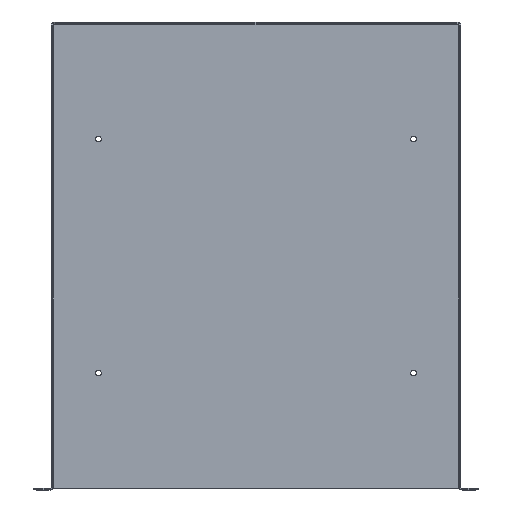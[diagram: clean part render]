
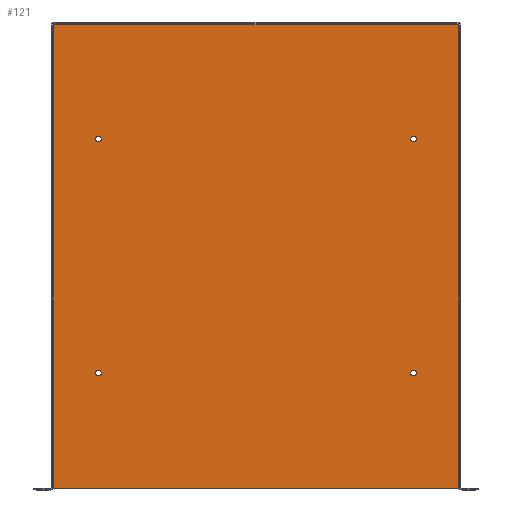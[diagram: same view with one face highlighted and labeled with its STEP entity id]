
A CAD part, top view. The second image highlights one B-rep face of the part: STEP entity #121.
In plain terms, the highlighted planar face has unit normal (0, 0, 1).
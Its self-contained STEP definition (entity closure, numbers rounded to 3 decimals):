
#121 = ADVANCED_FACE( '', ( #297, #298, #299, #300, #301 ), #302, .T. );
#297 = FACE_BOUND( '', #590, .T. );
#298 = FACE_BOUND( '', #591, .T. );
#299 = FACE_BOUND( '', #592, .T. );
#300 = FACE_BOUND( '', #593, .T. );
#301 = FACE_OUTER_BOUND( '', #594, .T. );
#302 = PLANE( '', #595 );
#590 = EDGE_LOOP( '', ( #1262 ) );
#591 = EDGE_LOOP( '', ( #1263 ) );
#592 = EDGE_LOOP( '', ( #1264 ) );
#593 = EDGE_LOOP( '', ( #1265 ) );
#594 = EDGE_LOOP( '', ( #1266, #1267, #1268, #1269 ) );
#595 = AXIS2_PLACEMENT_3D( '', #1270, #1271, #1272 );
#1262 = ORIENTED_EDGE( '', *, *, #1536, .F. );
#1263 = ORIENTED_EDGE( '', *, *, #1534, .F. );
#1264 = ORIENTED_EDGE( '', *, *, #1532, .F. );
#1265 = ORIENTED_EDGE( '', *, *, #1530, .F. );
#1266 = ORIENTED_EDGE( '', *, *, #1401, .F. );
#1267 = ORIENTED_EDGE( '', *, *, #1498, .T. );
#1268 = ORIENTED_EDGE( '', *, *, #1543, .F. );
#1269 = ORIENTED_EDGE( '', *, *, #1392, .T. );
#1270 = CARTESIAN_POINT( '', ( -222.25, -253.086, 1.829 ) );
#1271 = DIRECTION( '', ( 0., 0., 1. ) );
#1272 = DIRECTION( '', ( 1., 0., 0. ) );
#1392 = EDGE_CURVE( '', #1668, #1665, #1669, .T. );
#1401 = EDGE_CURVE( '', #1652, #1665, #1682, .T. );
#1498 = EDGE_CURVE( '', #1652, #1845, #1847, .T. );
#1530 = EDGE_CURVE( '', #1887, #1887, #1888, .T. );
#1532 = EDGE_CURVE( '', #1891, #1891, #1892, .T. );
#1534 = EDGE_CURVE( '', #1895, #1895, #1896, .T. );
#1536 = EDGE_CURVE( '', #1899, #1899, #1900, .T. );
#1543 = EDGE_CURVE( '', #1668, #1845, #1907, .T. );
#1652 = VERTEX_POINT( '', #2088 );
#1665 = VERTEX_POINT( '', #2106 );
#1668 = VERTEX_POINT( '', #2109 );
#1669 = LINE( '', #2110, #2111 );
#1682 = LINE( '', #2130, #2131 );
#1845 = VERTEX_POINT( '', #2422 );
#1847 = LINE( '', #2424, #2425 );
#1887 = VERTEX_POINT( '', #2501 );
#1888 = CIRCLE( '', #2502, 3.175 );
#1891 = VERTEX_POINT( '', #2505 );
#1892 = CIRCLE( '', #2506, 3.175 );
#1895 = VERTEX_POINT( '', #2509 );
#1896 = CIRCLE( '', #2510, 3.175 );
#1899 = VERTEX_POINT( '', #2513 );
#1900 = CIRCLE( '', #2514, 3.175 );
#1907 = LINE( '', #2527, #2528 );
#2088 = CARTESIAN_POINT( '', ( 219.507, 250.342, 1.829 ) );
#2106 = CARTESIAN_POINT( '', ( 219.507, -253.086, 1.829 ) );
#2109 = CARTESIAN_POINT( '', ( -219.507, -253.086, 1.829 ) );
#2110 = CARTESIAN_POINT( '', ( -222.25, -253.086, 1.829 ) );
#2111 = VECTOR( '', #2673, 1000. );
#2130 = CARTESIAN_POINT( '', ( 219.507, 253.086, 1.829 ) );
#2131 = VECTOR( '', #2686, 1000. );
#2422 = CARTESIAN_POINT( '', ( -219.507, 250.342, 1.829 ) );
#2424 = CARTESIAN_POINT( '', ( -219.505, 250.342, 1.829 ) );
#2425 = VECTOR( '', #2829, 1000. );
#2501 = CARTESIAN_POINT( '', ( -167.869, -127.914, 1.829 ) );
#2502 = AXIS2_PLACEMENT_3D( '', #2871, #2872, #2873 );
#2505 = CARTESIAN_POINT( '', ( 174.219, 126.086, 1.829 ) );
#2506 = AXIS2_PLACEMENT_3D( '', #2877, #2878, #2879 );
#2509 = CARTESIAN_POINT( '', ( 174.219, -127.914, 1.829 ) );
#2510 = AXIS2_PLACEMENT_3D( '', #2883, #2884, #2885 );
#2513 = CARTESIAN_POINT( '', ( -167.869, 126.086, 1.829 ) );
#2514 = AXIS2_PLACEMENT_3D( '', #2889, #2890, #2891 );
#2527 = CARTESIAN_POINT( '', ( -219.507, -253.086, 1.829 ) );
#2528 = VECTOR( '', #2898, 1000. );
#2673 = DIRECTION( '', ( 1., 0., 0. ) );
#2686 = DIRECTION( '', ( 0., -1., 0. ) );
#2829 = DIRECTION( '', ( -1., 0., 0. ) );
#2871 = CARTESIAN_POINT( '', ( -171.044, -127.914, 1.829 ) );
#2872 = DIRECTION( '', ( 0., 0., 1. ) );
#2873 = DIRECTION( '', ( 1., 0., 0. ) );
#2877 = CARTESIAN_POINT( '', ( 171.044, 126.086, 1.829 ) );
#2878 = DIRECTION( '', ( 0., 0., 1. ) );
#2879 = DIRECTION( '', ( 1., 0., 0. ) );
#2883 = CARTESIAN_POINT( '', ( 171.044, -127.914, 1.829 ) );
#2884 = DIRECTION( '', ( 0., 0., 1. ) );
#2885 = DIRECTION( '', ( 1., 0., 0. ) );
#2889 = CARTESIAN_POINT( '', ( -171.044, 126.086, 1.829 ) );
#2890 = DIRECTION( '', ( 0., 0., 1. ) );
#2891 = DIRECTION( '', ( 1., 0., 0. ) );
#2898 = DIRECTION( '', ( 0., 1., 0. ) );
